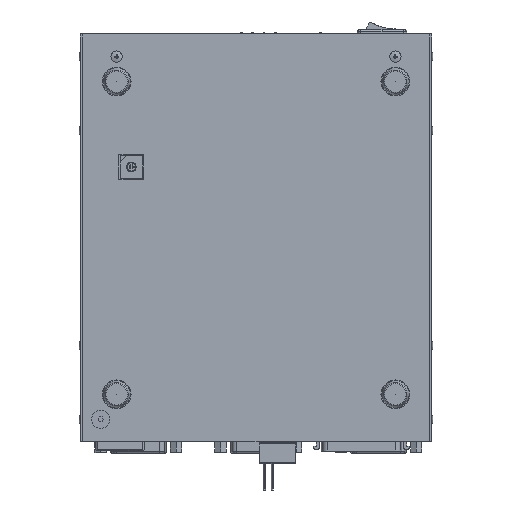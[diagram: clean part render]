
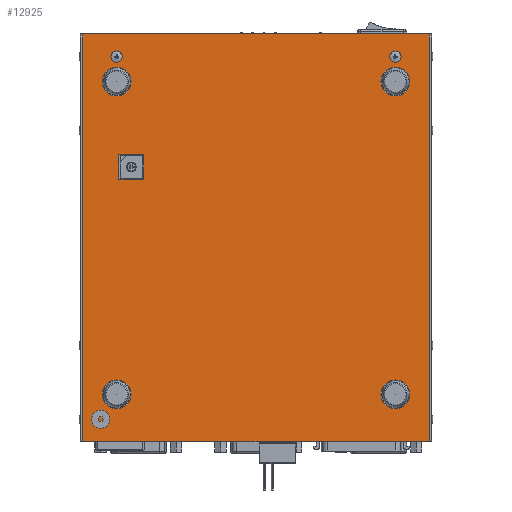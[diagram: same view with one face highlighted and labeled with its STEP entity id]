
A CAD part, front view. The second image highlights one B-rep face of the part: STEP entity #12925.
In plain terms, the highlighted planar face has unit normal (0, -1, 0).
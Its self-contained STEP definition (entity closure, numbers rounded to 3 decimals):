
#12925=ADVANCED_FACE('',(#50124,#50125),#50123,.F.);
#50123=PLANE('',#74068);
#50124=FACE_OUTER_BOUND('',#74069,.T.);
#50125=FACE_BOUND('',#74070,.T.);
#74065=CARTESIAN_POINT('',(-150.477,-60.,44.177));
#74066=DIRECTION('',(0.,1.,0.));
#74067=DIRECTION('',(1.,0.,0.));
#74068=AXIS2_PLACEMENT_3D('',#74065,#74066,#74067);
#74069=EDGE_LOOP('',(#92826,#92827,#92828,#92829));
#74070=EDGE_LOOP('',(#92830,#92831,#92832,#92833));
#92826=ORIENTED_EDGE('',*,*,#102113,.T.);
#92827=ORIENTED_EDGE('',*,*,#102240,.F.);
#92828=ORIENTED_EDGE('',*,*,#101984,.F.);
#92829=ORIENTED_EDGE('',*,*,#102241,.T.);
#92830=ORIENTED_EDGE('',*,*,#102237,.F.);
#92831=ORIENTED_EDGE('',*,*,#102235,.F.);
#92832=ORIENTED_EDGE('',*,*,#102233,.F.);
#92833=ORIENTED_EDGE('',*,*,#102239,.F.);
#101984=EDGE_CURVE('',#162833,#162834,#162835,.T.);
#102113=EDGE_CURVE('',#163719,#163712,#163720,.T.);
#102233=EDGE_CURVE('',#164489,#164496,#164497,.T.);
#102235=EDGE_CURVE('',#164496,#164509,#164510,.T.);
#102237=EDGE_CURVE('',#164509,#164522,#164523,.T.);
#102239=EDGE_CURVE('',#164522,#164489,#164535,.T.);
#102240=EDGE_CURVE('',#162834,#163712,#164541,.T.);
#102241=EDGE_CURVE('',#162833,#163719,#164547,.T.);
#162833=VERTEX_POINT('',#201398);
#162834=VERTEX_POINT('',#201399);
#162835=LINE('',#201400,#201401);
#163712=VERTEX_POINT('',#201910);
#163719=VERTEX_POINT('',#201914);
#163720=LINE('',#201915,#201916);
#164489=VERTEX_POINT('',#202334);
#164496=VERTEX_POINT('',#202338);
#164497=LINE('',#202339,#202340);
#164509=VERTEX_POINT('',#202345);
#164510=LINE('',#202346,#202347);
#164522=VERTEX_POINT('',#202352);
#164523=LINE('',#202353,#202354);
#164535=LINE('',#202359,#202360);
#164541=LINE('',#202362,#202363);
#164547=LINE('',#202365,#202366);
#201398=CARTESIAN_POINT('',(-140.477,-60.,34.177));
#201399=CARTESIAN_POINT('',(12.523,-60.,34.177));
#201400=CARTESIAN_POINT('',(-140.477,-60.,34.177));
#201401=VECTOR('',#201402,153.);
#201402=DIRECTION('',(1.,0.,0.));
#201910=CARTESIAN_POINT('',(12.523,-60.,-145.823));
#201914=CARTESIAN_POINT('',(-140.477,-60.,-145.823));
#201915=CARTESIAN_POINT('',(-140.477,-60.,-145.823));
#201916=VECTOR('',#201917,153.);
#201917=DIRECTION('',(1.,0.,0.));
#202334=CARTESIAN_POINT('',(-113.477,-60.,-30.023));
#202338=CARTESIAN_POINT('',(-113.477,-60.,-19.023));
#202339=CARTESIAN_POINT('',(-113.477,-60.,-30.023));
#202340=VECTOR('',#202341,11.);
#202341=DIRECTION('',(0.,0.,1.));
#202345=CARTESIAN_POINT('',(-124.477,-60.,-19.023));
#202346=CARTESIAN_POINT('',(-113.477,-60.,-19.023));
#202347=VECTOR('',#202348,11.);
#202348=DIRECTION('',(-1.,0.,0.));
#202352=CARTESIAN_POINT('',(-124.477,-60.,-30.023));
#202353=CARTESIAN_POINT('',(-124.477,-60.,-19.023));
#202354=VECTOR('',#202355,11.);
#202355=DIRECTION('',(0.,0.,-1.));
#202359=CARTESIAN_POINT('',(-124.477,-60.,-30.023));
#202360=VECTOR('',#202361,11.);
#202361=DIRECTION('',(1.,0.,0.));
#202362=CARTESIAN_POINT('',(12.523,-60.,34.177));
#202363=VECTOR('',#202364,180.);
#202364=DIRECTION('',(0.,0.,-1.));
#202365=CARTESIAN_POINT('',(-140.477,-60.,34.177));
#202366=VECTOR('',#202367,180.);
#202367=DIRECTION('',(0.,0.,-1.));
